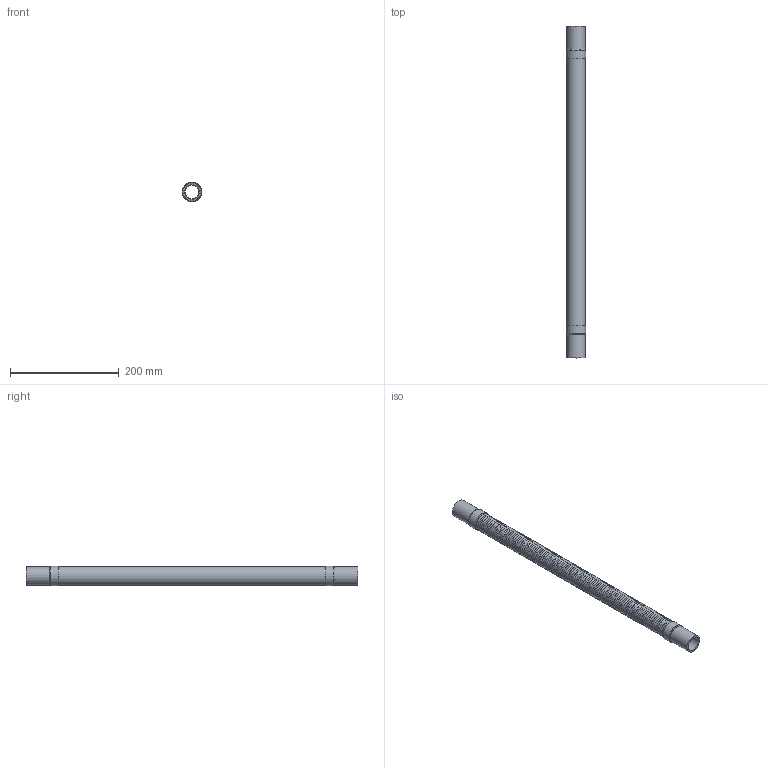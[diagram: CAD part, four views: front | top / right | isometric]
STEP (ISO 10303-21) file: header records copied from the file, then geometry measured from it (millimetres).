
FILE_DESCRIPTION((''),'2;1');
FILE_NAME('C:\2012_Work\Designs\MN\MN-1x24.stp','2013-08-09T17:24:49',('KShiels'),(''),'Autodesk Inventor 2012','Autodesk Inventor 2012','');
FILE_SCHEMA(('AUTOMOTIVE_DESIGN { 1 0 10303 214 1 1 1 1 }'));
Length unit declared in the file: inch
Products named in the file (6): MN-1x24; MN-1x24_Welds; A-30096-5-1MN-BRAID; A-30096-5_1in_MN-BELLOWS; A-30096-5_1MN-BRAID-COLLAR; A-30096-5_1MN-THREADED_NIPPLE
Assembly tree (7 placements, depth 2):
  MN-1x24
    MN-1x24_Welds
    A-30096-5-1MN-BRAID
    A-30096-5_1in_MN-BELLOWS
    A-30096-5_1MN-BRAID-COLLAR  x2
    A-30096-5_1MN-THREADED_NIPPLE  x2
Bounding box: 36.01 x 609.6 x 36.01 mm (x, y, z)
Volume: 81938.6 mm3; surface area: 349337.2 mm2
Topology: 8 solids, 8 shells, 1014 faces, 1528 edges, 1020 vertices
Faces by surface type: plane 506, torus 494, cylinder 12, bspline 2
Full cylindrical faces by diameter (mm): 26.645 x2, 33.02 x1, 33.401 x4, 33.63 x3, 36.011 x2
Entity records: 20878 total; most frequent: DIRECTION 4038, CARTESIAN_POINT 3541, ORIENTED_EDGE 2024, AXIS2_PLACEMENT_3D 2019, EDGE_LOOP 2010, EDGE_CURVE 1012, VERTEX_POINT 1010, FACE_OUTER_BOUND 1006
